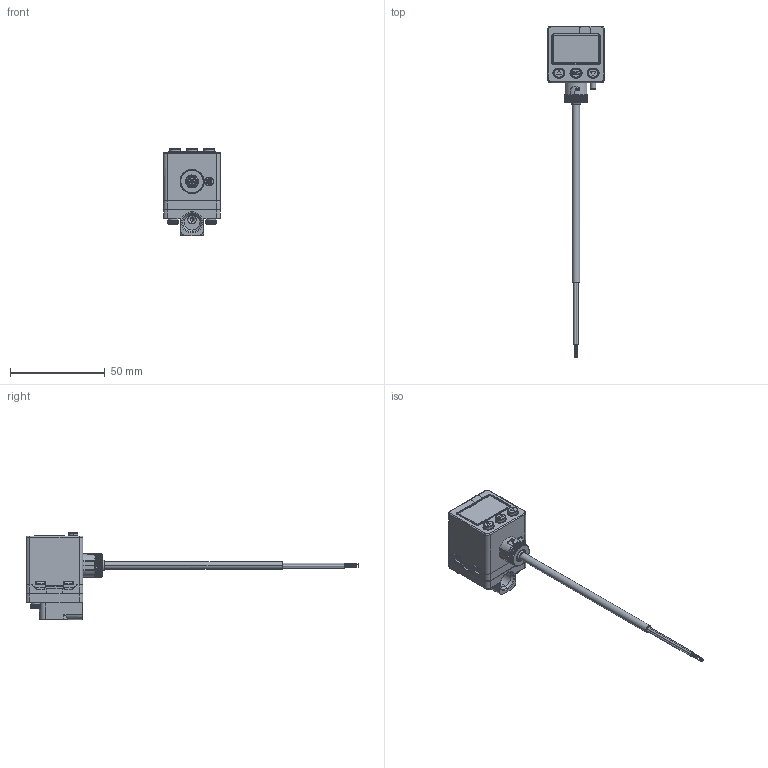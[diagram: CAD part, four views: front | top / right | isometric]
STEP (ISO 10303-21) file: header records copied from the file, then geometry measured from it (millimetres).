
FILE_DESCRIPTION((''),'2;1');
FILE_NAME('KP45_SW0002','2018-05-17T',('tommy'),(''),'CREO PARAMETRIC BY PTC INC, 2014500','CREO PARAMETRIC BY PTC INC, 2014500','');
FILE_SCHEMA(('CONFIG_CONTROL_DESIGN'));
Products named in the file (1): KP45_SW0002
Bounding box: 30.08 x 175.34 x 46 mm (x, y, z)
Volume: 35497.1 mm3; surface area: 11159.2 mm2
Topology: 1 solids, 3 shells, 1335 faces, 3487 edges, 2194 vertices
Faces by surface type: plane 618, cylinder 377, cone 248, bspline 50, torus 36, extrusion 6
Entity records: 50635 total; most frequent: CARTESIAN_POINT 19889, ORIENTED_EDGE 6962, DIRECTION 5600, EDGE_CURVE 3481, VERTEX_POINT 2194, AXIS2_PLACEMENT_3D 2056, VECTOR 1488, LINE 1482
